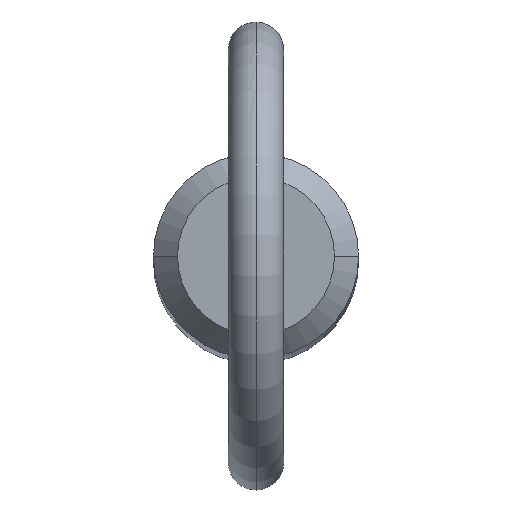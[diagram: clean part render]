
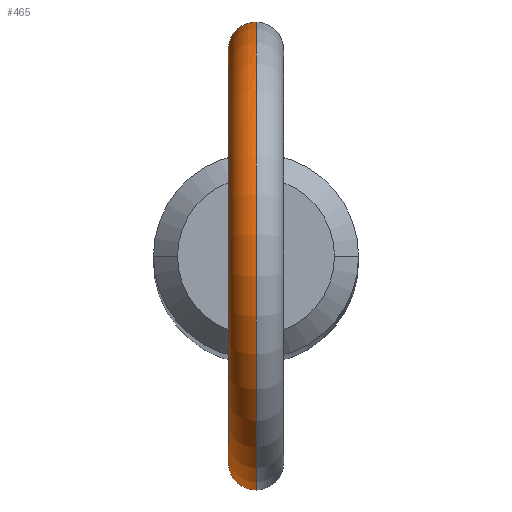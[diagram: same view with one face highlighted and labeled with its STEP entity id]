
A CAD part, top view. The second image highlights one B-rep face of the part: STEP entity #465.
In plain terms, the highlighted toroidal (fillet/blend) face has major radius 11.2 mm and minor radius 1.5 mm.
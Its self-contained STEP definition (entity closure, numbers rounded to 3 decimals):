
#1 = CARTESIAN_POINT ( 'NONE',  ( -0.107, -5.55, 140.977 ) ) ;
#4 = DIRECTION ( 'NONE',  ( 1., 0., 0. ) ) ;
#8 = VERTEX_POINT ( 'NONE', #56 ) ;
#9 = DIRECTION ( 'NONE',  ( 1., 0., 0. ) ) ;
#23 = FACE_OUTER_BOUND ( 'NONE', #502, .T. ) ;
#31 = CARTESIAN_POINT ( 'NONE',  ( -1.477, -5.35, 142.242 ) ) ;
#36 = CARTESIAN_POINT ( 'NONE',  ( -0.716, 5.504, 141.152 ) ) ;
#42 = CARTESIAN_POINT ( 'NONE',  ( -0.941, 5.471, 144.007 ) ) ;
#44 = CARTESIAN_POINT ( 'NONE',  ( 0., -5.55, 140.977 ) ) ;
#45 = DIRECTION ( 'NONE',  ( 0., 0., -1. ) ) ;
#46 = CARTESIAN_POINT ( 'NONE',  ( -1.44, -5.36, 143.087 ) ) ;
#51 = AXIS2_PLACEMENT_3D ( 'NONE', #143, #299, #512 ) ;
#56 = CARTESIAN_POINT ( 'NONE',  ( 0., 5.55, 140.977 ) ) ;
#63 = CIRCLE ( 'NONE', #354, 12.7 ) ;
#73 = CARTESIAN_POINT ( 'NONE',  ( -1.485, -5.348, 142.879 ) ) ;
#74 = CARTESIAN_POINT ( 'NONE',  ( -1.455, -5.356, 142.136 ) ) ;
#80 = VERTEX_POINT ( 'NONE', #431 ) ;
#81 = CARTESIAN_POINT ( 'NONE',  ( -0.716, -5.504, 141.152 ) ) ;
#112 = TOROIDAL_SURFACE ( 'NONE', #243, 11.2, 1.5 ) ;
#114 = CARTESIAN_POINT ( 'NONE',  ( -0.42, -5.535, 141.032 ) ) ;
#117 = CARTESIAN_POINT ( 'NONE',  ( -1.363, 5.38, 141.834 ) ) ;
#120 = EDGE_CURVE ( 'NONE', #80, #128, #525, .T. ) ;
#121 = CARTESIAN_POINT ( 'NONE',  ( -0.416, -5.535, 144.367 ) ) ;
#128 = VERTEX_POINT ( 'NONE', #256 ) ;
#129 = DIRECTION ( 'NONE',  ( 0., 0., -1. ) ) ;
#137 = B_SPLINE_CURVE_WITH_KNOTS ( 'NONE', 3,
 ( #358, #1, #318, #114, #397, #81, #187, #151, #311, #156, #447, #74, #31, #478, #517, #73, #46, #367, #492, #237, #279, #228, #121, #407, #160, #230 ),
 .UNSPECIFIED., .F., .F.,
 ( 4, 2, 2, 2, 2, 2, 2, 2, 2, 2, 2, 2, 4 ),
 ( 0.01, 0.01, 0.01, 0.011, 0.011, 0.012, 0.012, 0.012, 0.013, 0.013, 0.014, 0.014, 0.015 ),
 .UNSPECIFIED. ) ;
#143 = CARTESIAN_POINT ( 'NONE',  ( 0., 0., 152.4 ) ) ;
#144 = EDGE_CURVE ( 'NONE', #80, #8, #462, .T. ) ;
#151 = CARTESIAN_POINT ( 'NONE',  ( -0.976, -5.464, 141.331 ) ) ;
#153 = CARTESIAN_POINT ( 'NONE',  ( -0.425, 5.537, 141.021 ) ) ;
#156 = CARTESIAN_POINT ( 'NONE',  ( -1.26, -5.407, 141.642 ) ) ;
#160 = CARTESIAN_POINT ( 'NONE',  ( -0.106, -5.55, 144.445 ) ) ;
#163 = EDGE_CURVE ( 'NONE', #442, #128, #137, .T. ) ;
#168 = ORIENTED_EDGE ( 'NONE', *, *, #120, .T. ) ;
#187 = CARTESIAN_POINT ( 'NONE',  ( -0.807, -5.492, 141.205 ) ) ;
#189 = CARTESIAN_POINT ( 'NONE',  ( -1.055, 5.449, 141.405 ) ) ;
#217 = CARTESIAN_POINT ( 'NONE',  ( 0., 5.55, 144.445 ) ) ;
#220 = CARTESIAN_POINT ( 'NONE',  ( -0.213, 5.55, 144.445 ) ) ;
#228 = CARTESIAN_POINT ( 'NONE',  ( -0.513, -5.527, 144.323 ) ) ;
#230 = CARTESIAN_POINT ( 'NONE',  ( 0., -5.55, 144.445 ) ) ;
#237 = CARTESIAN_POINT ( 'NONE',  ( -0.939, -5.472, 144.01 ) ) ;
#241 = CARTESIAN_POINT ( 'NONE',  ( 0., 0., 152.4 ) ) ;
#243 = AXIS2_PLACEMENT_3D ( 'NONE', #314, #4, #45 ) ;
#256 = CARTESIAN_POINT ( 'NONE',  ( 0., -5.55, 144.445 ) ) ;
#265 = CARTESIAN_POINT ( 'NONE',  ( -1.509, 5.341, 142.455 ) ) ;
#266 = CARTESIAN_POINT ( 'NONE',  ( -1.321, 5.397, 143.504 ) ) ;
#279 = CARTESIAN_POINT ( 'NONE',  ( -0.785, -5.497, 144.158 ) ) ;
#299 = DIRECTION ( 'NONE',  ( 1., 0., 0. ) ) ;
#305 = EDGE_CURVE ( 'NONE', #8, #442, #63, .T. ) ;
#311 = CARTESIAN_POINT ( 'NONE',  ( -1.054, -5.449, 141.404 ) ) ;
#314 = CARTESIAN_POINT ( 'NONE',  ( 0., 0., 152.4 ) ) ;
#315 = ORIENTED_EDGE ( 'NONE', *, *, #163, .F. ) ;
#318 = CARTESIAN_POINT ( 'NONE',  ( -0.212, -5.547, 140.988 ) ) ;
#354 = AXIS2_PLACEMENT_3D ( 'NONE', #241, #9, #129 ) ;
#355 = CARTESIAN_POINT ( 'NONE',  ( -1.474, 5.351, 143.085 ) ) ;
#358 = CARTESIAN_POINT ( 'NONE',  ( 0., -5.55, 140.977 ) ) ;
#360 = CARTESIAN_POINT ( 'NONE',  ( 0., 5.55, 140.977 ) ) ;
#367 = CARTESIAN_POINT ( 'NONE',  ( -1.294, -5.398, 143.486 ) ) ;
#376 = ORIENTED_EDGE ( 'NONE', *, *, #305, .F. ) ;
#394 = CARTESIAN_POINT ( 'NONE',  ( -0.786, 5.497, 144.157 ) ) ;
#395 = CARTESIAN_POINT ( 'NONE',  ( -0.976, 5.464, 141.331 ) ) ;
#397 = CARTESIAN_POINT ( 'NONE',  ( -0.523, -5.526, 141.066 ) ) ;
#400 = CARTESIAN_POINT ( 'NONE',  ( -1.26, 5.407, 141.643 ) ) ;
#405 = CARTESIAN_POINT ( 'NONE',  ( -0.425, 5.537, 144.377 ) ) ;
#407 = CARTESIAN_POINT ( 'NONE',  ( -0.211, -5.547, 144.429 ) ) ;
#431 = CARTESIAN_POINT ( 'NONE',  ( 0., 5.55, 144.445 ) ) ;
#439 = CARTESIAN_POINT ( 'NONE',  ( -0.807, 5.492, 141.206 ) ) ;
#442 = VERTEX_POINT ( 'NONE', #44 ) ;
#443 = CARTESIAN_POINT ( 'NONE',  ( -1.486, 5.348, 142.238 ) ) ;
#447 = CARTESIAN_POINT ( 'NONE',  ( -1.362, -5.381, 141.832 ) ) ;
#462 = B_SPLINE_CURVE_WITH_KNOTS ( 'NONE', 3,
 ( #217, #220, #405, #394, #42, #266, #355, #265, #443, #117, #400, #189, #395, #439, #36, #153, #485, #360 ),
 .UNSPECIFIED., .F., .F.,
 ( 4, 2, 2, 2, 2, 2, 2, 2, 4 ),
 ( 0.006, 0.006, 0.007, 0.008, 0.009, 0.009, 0.01, 0.01, 0.011 ),
 .UNSPECIFIED. ) ;
#465 = ADVANCED_FACE ( 'NONE', ( #23 ), #112, .T. ) ;
#478 = CARTESIAN_POINT ( 'NONE',  ( -1.5, -5.343, 142.453 ) ) ;
#485 = CARTESIAN_POINT ( 'NONE',  ( -0.214, 5.55, 140.977 ) ) ;
#492 = CARTESIAN_POINT ( 'NONE',  ( -1.195, -5.421, 143.671 ) ) ;
#502 = EDGE_LOOP ( 'NONE', ( #376, #519, #168, #315 ) ) ;
#512 = DIRECTION ( 'NONE',  ( 0., 0., -1. ) ) ;
#517 = CARTESIAN_POINT ( 'NONE',  ( -1.503, -5.343, 142.559 ) ) ;
#519 = ORIENTED_EDGE ( 'NONE', *, *, #144, .F. ) ;
#525 = CIRCLE ( 'NONE', #51, 9.7 ) ;
